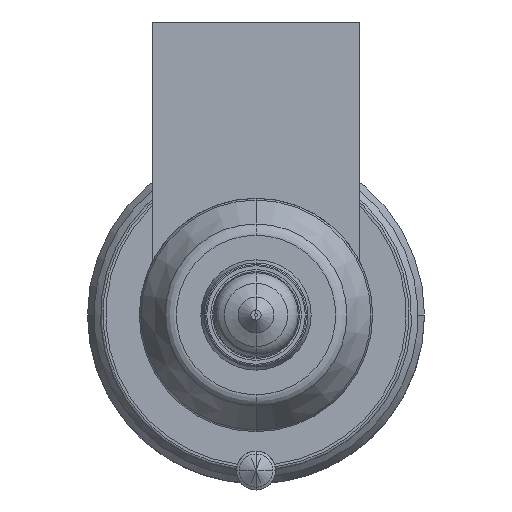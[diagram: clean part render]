
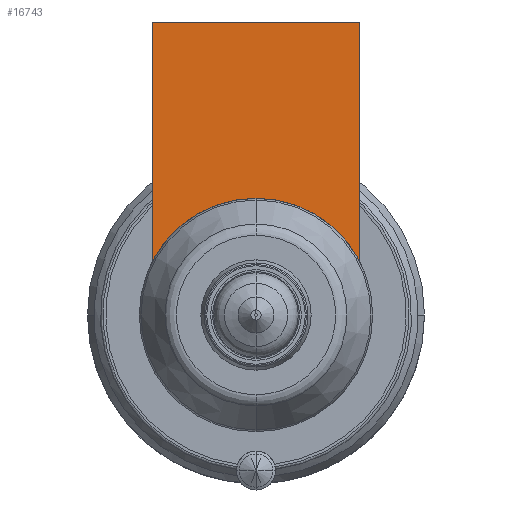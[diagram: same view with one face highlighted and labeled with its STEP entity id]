
A CAD part, front view. The second image highlights one B-rep face of the part: STEP entity #16743.
In plain terms, the highlighted planar face has unit normal (0, -1, 0).
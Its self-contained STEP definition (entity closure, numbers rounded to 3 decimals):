
#15265=DIRECTION('',(0.,0.,-1.));
#15266=VECTOR('',#15265,18.481);
#15267=CARTESIAN_POINT('',(-8.,-54.,22.604));
#15268=LINE('',#15267,#15266);
#15893=CARTESIAN_POINT('',(0.,-54.,0.));
#15894=DIRECTION('',(0.,-1.,0.));
#15895=DIRECTION('',(0.,0.,1.));
#15896=AXIS2_PLACEMENT_3D('',#15893,#15894,#15895);
#15901=DIRECTION('',(1.,0.,0.));
#15902=VECTOR('',#15901,16.);
#15903=CARTESIAN_POINT('',(-8.,-54.,22.604));
#15904=LINE('',#15903,#15902);
#15908=CARTESIAN_POINT('',(0.,-54.,0.));
#15909=DIRECTION('',(0.,-1.,0.));
#15910=DIRECTION('',(0.889,0.,0.458));
#15911=AXIS2_PLACEMENT_3D('',#15908,#15909,#15910);
#15992=DIRECTION('',(0.,0.,-1.));
#15993=VECTOR('',#15992,18.481);
#15994=CARTESIAN_POINT('',(8.,-54.,22.604));
#15995=LINE('',#15994,#15993);
#16101=CARTESIAN_POINT('',(-8.,-54.,22.604));
#16102=VERTEX_POINT('',#16101);
#16107=CARTESIAN_POINT('',(8.,-54.,22.604));
#16108=VERTEX_POINT('',#16107);
#16110=CARTESIAN_POINT('',(-8.,-54.,4.123));
#16112=VERTEX_POINT('',#16110);
#16114=CARTESIAN_POINT('',(8.,-54.,4.123));
#16116=VERTEX_POINT('',#16114);
#16117=CARTESIAN_POINT('',(0.,-54.,9.));
#16118=VERTEX_POINT('',#16117);
#16729=CARTESIAN_POINT('',(-8.,-54.,22.604));
#16730=DIRECTION('',(0.,-1.,0.));
#16731=DIRECTION('',(0.,0.,-1.));
#16732=AXIS2_PLACEMENT_3D('',#16729,#16730,#16731);
#16733=PLANE('',#16732);
#16734=ORIENTED_EDGE('',*,*,#16158,.T.);
#16735=ORIENTED_EDGE('',*,*,#16141,.F.);
#16737=ORIENTED_EDGE('',*,*,#16736,.T.);
#16739=ORIENTED_EDGE('',*,*,#16738,.T.);
#16740=ORIENTED_EDGE('',*,*,#16206,.T.);
#16741=EDGE_LOOP('',(#16734,#16735,#16737,#16739,#16740));
#16742=FACE_OUTER_BOUND('',#16741,.F.);
#16743=ADVANCED_FACE('',(#16742),#16733,.T.);
#15897=CIRCLE('',#15896,9.);
#15912=CIRCLE('',#15911,9.);
#16141=EDGE_CURVE('',#16102,#16112,#15268,.T.);
#16158=EDGE_CURVE('',#16118,#16112,#15897,.T.);
#16206=EDGE_CURVE('',#16116,#16118,#15912,.T.);
#16736=EDGE_CURVE('',#16102,#16108,#15904,.T.);
#16738=EDGE_CURVE('',#16108,#16116,#15995,.T.);
